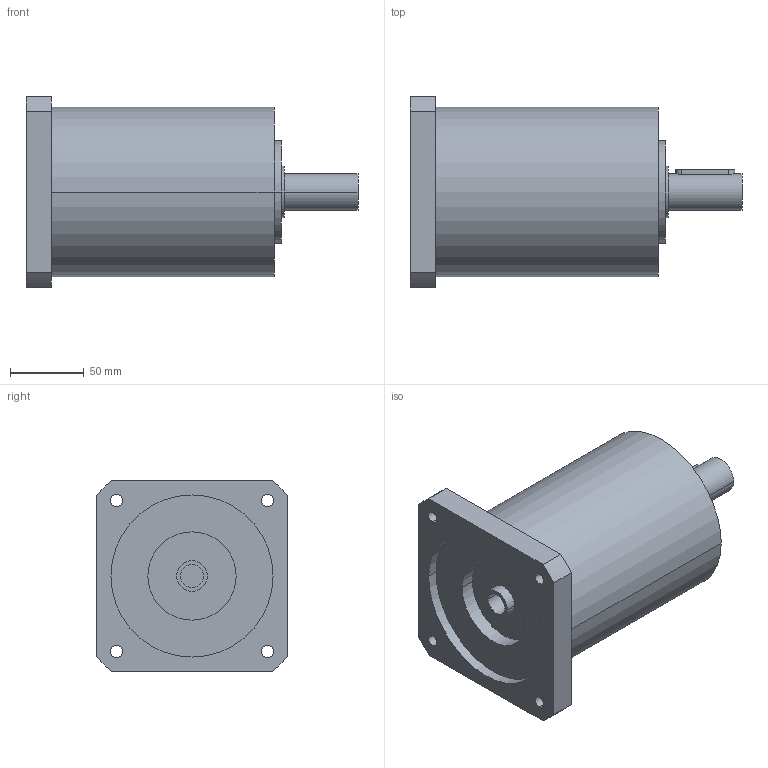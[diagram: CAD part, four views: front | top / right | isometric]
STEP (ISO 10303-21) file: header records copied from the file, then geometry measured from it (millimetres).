
FILE_DESCRIPTION(('CoCreate Modeling STEP Export'),'2;1');
FILE_NAME('GPR125_ig-9-12-16-20-28-35_25_B14_15.87_P12.stp','2014-08-26T14:10:05',(''),(''),'CoCreate Modeling STEP processor for AP214 (Solid Model)','CoCreate Modeling 16.00C 25-Feb-2009 (C) Parametric Technology GmbH','');
FILE_SCHEMA(('AUTOMOTIVE_DESIGN { 1 0 10303 214 1 1 1 1 }'));
Length unit declared in the file: millimetre
Products named in the file (2): GPR125_ig-9-12-16-20-28-35_25_B14_15.87_P12
Assembly tree (1 placements, depth 2):
  GPR125_ig-9-12-16-20-28-35_25_B14_15.87_P12
    GPR125_ig-9-12-16-20-28-35_25_B14_15.87_P12
Bounding box: 225.4 x 130 x 130 mm (x, y, z)
Volume: 1794912.8 mm3; surface area: 112811.3 mm2
Topology: 1 solids, 1 shells, 65 faces, 178 edges, 126 vertices
Faces by surface type: cylinder 40, plane 21, cone 4
Entity records: 1843 total; most frequent: ORIENTED_EDGE 352, CARTESIAN_POINT 349, DIRECTION 248, EDGE_CURVE 176, VERTEX_POINT 126, AXIS2_PLACEMENT_3D 93, EDGE_LOOP 86, FACE_OUTER_BOUND 65
